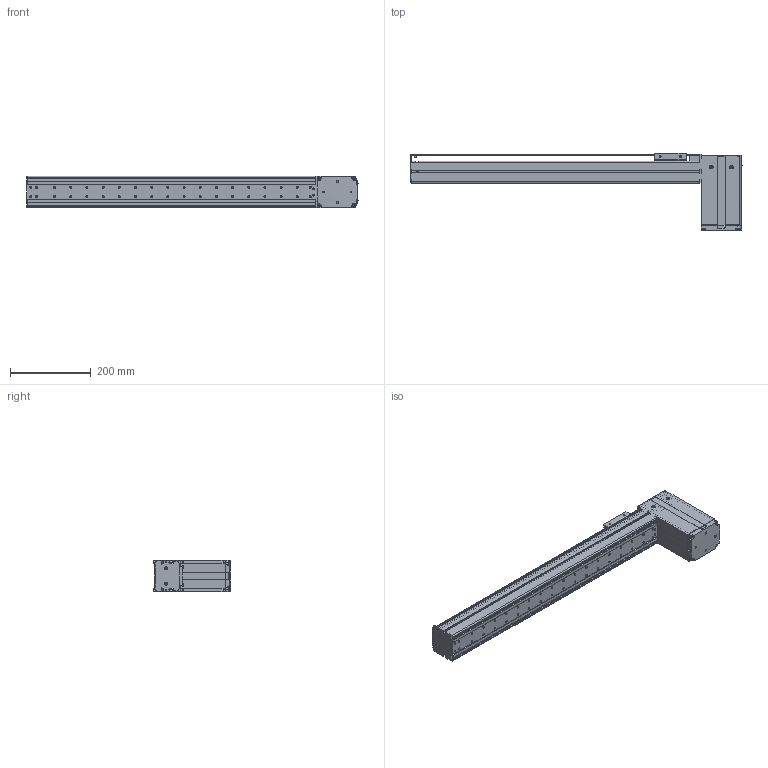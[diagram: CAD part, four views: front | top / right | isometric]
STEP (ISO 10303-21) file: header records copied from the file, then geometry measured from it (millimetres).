
FILE_DESCRIPTION((''),'2;1');
FILE_NAME('BE10_-BU-S_N-55_IGS_PRT','2017-06-18T',(' '),(''),'PRO/ENGINEER BY PARAMETRIC TECHNOLOGY CORPORATION, 2015030','PRO/ENGINEER BY PARAMETRIC TECHNOLOGY CORPORATION, 2015030','');
FILE_SCHEMA(('CONFIG_CONTROL_DESIGN'));
Length unit declared in the file: millimetre
Products named in the file (1): BE10_-BU-S_N-55_IGS_PRT
Bounding box: 820.8 x 192.72 x 78 mm (x, y, z)
Volume: 1075508.3 mm3; surface area: 767955.3 mm2
Topology: 3 solids, 114 shells, 1881 faces, 5111 edges, 3355 vertices
Faces by surface type: plane 904, cylinder 816, cone 119, sphere 21, torus 19, bspline 2
Entity records: 60746 total; most frequent: CARTESIAN_POINT 12216, DIRECTION 10329, ORIENTED_EDGE 9722, EDGE_CURVE 5057, AXIS2_PLACEMENT_3D 3661, VERTEX_POINT 3355, VECTOR 3007, LINE 3007
